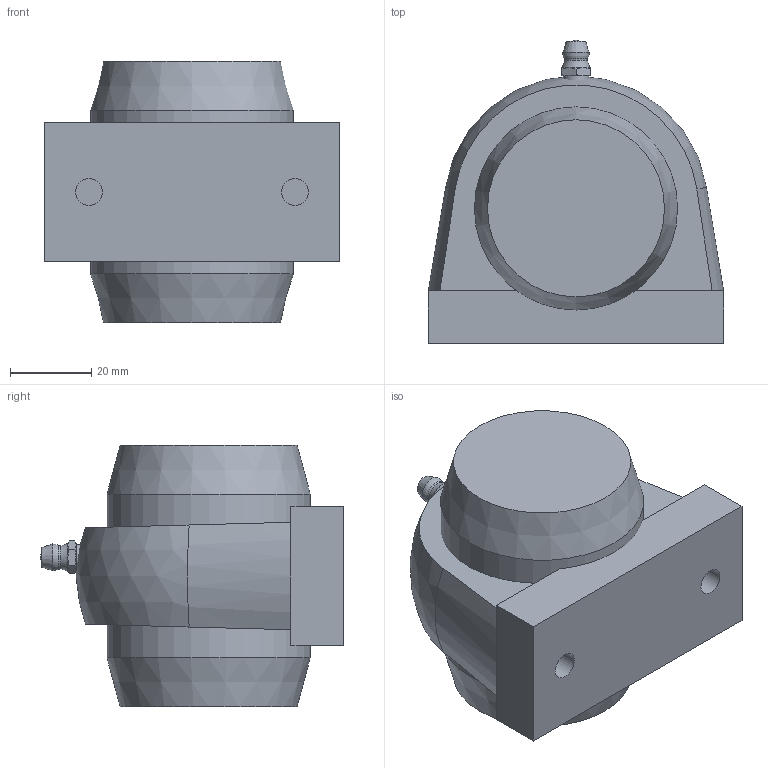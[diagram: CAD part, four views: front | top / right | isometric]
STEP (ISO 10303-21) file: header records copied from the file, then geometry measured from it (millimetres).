
FILE_DESCRIPTION(/* description */ (''),/* implementation_level */ '2;1');
FILE_NAME(/* name */ 'C:\Users\UGijyutu_200702\Desktop\77.プラスチックハウジング\MBTBL200V\MBTBL200VE\MBTBL204VE.stp',/* time_stamp */ '2024-05-28T13:03:45+09:00',/* author */ ('UGijyutu_200702'),/* organization */ (''),/* preprocessor_version */ 'ST-DEVELOPER v18',/* originating_system */ 'Autodesk Inventor 2020',/* authorisation */ '');
FILE_SCHEMA (('AUTOMOTIVE_DESIGN { 1 0 10303 214 3 1 1 }'));
Length unit declared in the file: millimetre
Products named in the file (6): MBTBL204V; TBL204; MB4 V; 1/4-28UNF-2A; 204C; 204E
Assembly tree (5 placements, depth 2):
  MBTBL204V
    TBL204
    MB4 V
    1/4-28UNF-2A
    204C
    204E
Bounding box: 72.8 x 74.8 x 64.4 mm (x, y, z)
Volume: 108168.6 mm3; surface area: 44668.8 mm2
Topology: 5 solids, 5 shells, 104 faces, 251 edges, 172 vertices
Faces by surface type: plane 54, cylinder 24, cone 19, sphere 5, torus 2
Full cylindrical faces by diameter (mm): 3.2 x1, 5 x2, 5.359 x1, 6.35 x1, 6.647 x2, 20 x2, 25 x1, 29 x1, 35.6 x1, 46.5 x2, 49.8 x2, 50.1 x2
Entity records: 3582 total; most frequent: CARTESIAN_POINT 791, DIRECTION 563, ORIENTED_EDGE 500, EDGE_CURVE 250, AXIS2_PLACEMENT_3D 236, VERTEX_POINT 172, EDGE_LOOP 128, CIRCLE 111
